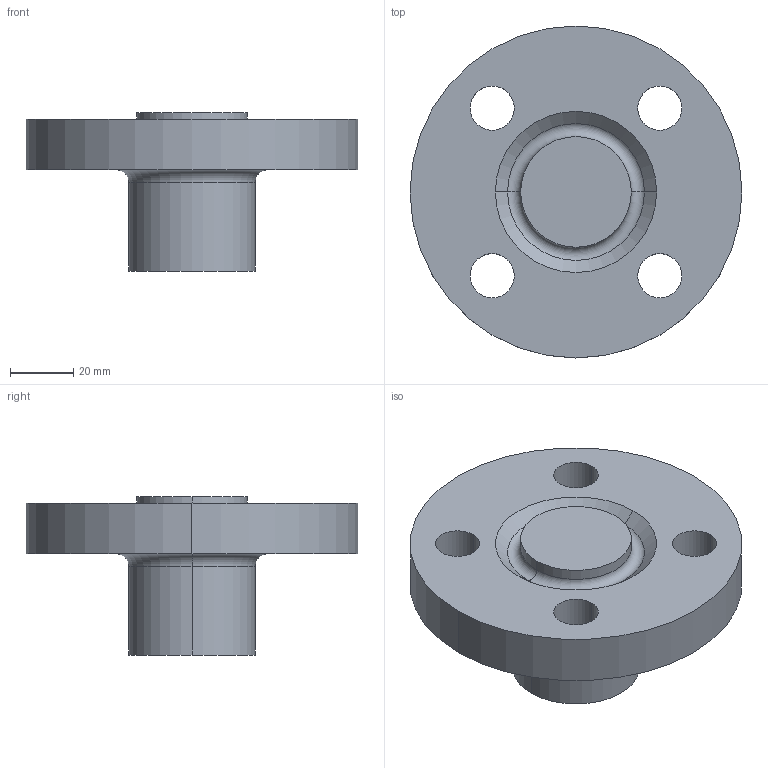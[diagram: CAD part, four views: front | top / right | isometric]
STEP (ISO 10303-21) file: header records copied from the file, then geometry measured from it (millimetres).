
FILE_DESCRIPTION (( 'STEP AP214' ), '1' );
FILE_NAME ('PN40 DN20 Type 21(i) - Type H Face.STEP', '2018-12-29T16:20:55', ( '' ), ( '' ), 'SwSTEP 2.0', 'SolidWorks 2019', '' );
FILE_SCHEMA (( 'AUTOMOTIVE_DESIGN' ));
Length unit declared in the file: millimetre
Products named in the file (1): PN40 DN20 Type 21(i) - Type H Face
Bounding box: 105 x 105 x 50 mm (x, y, z)
Volume: 168496.1 mm3; surface area: 28745.1 mm2
Topology: 1 solids, 1 shells, 24 faces, 54 edges, 34 vertices
Faces by surface type: cylinder 14, torus 4, plane 4, cone 2
Entity records: 738 total; most frequent: DIRECTION 142, CARTESIAN_POINT 113, ORIENTED_EDGE 108, AXIS2_PLACEMENT_3D 63, EDGE_CURVE 54, CIRCLE 38, EDGE_LOOP 34, VERTEX_POINT 34
